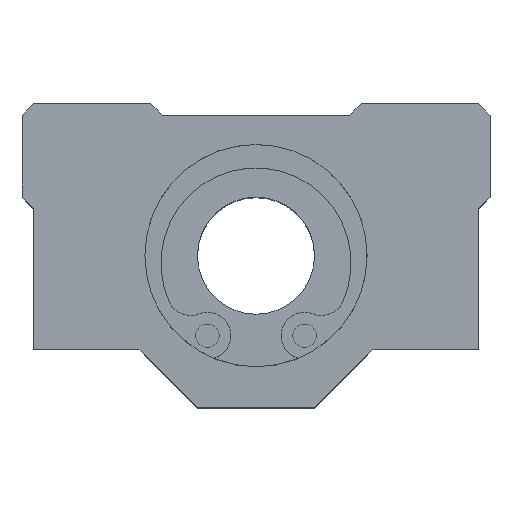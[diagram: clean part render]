
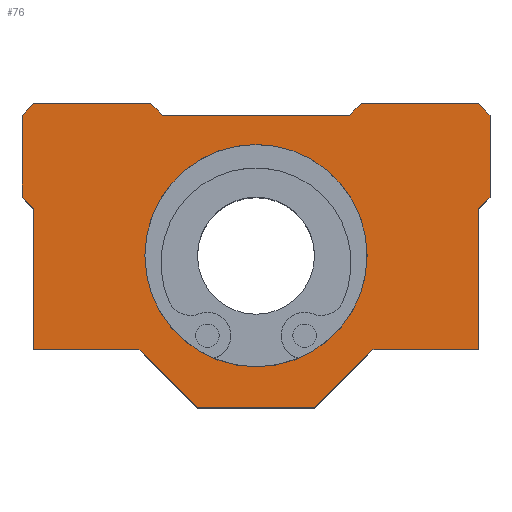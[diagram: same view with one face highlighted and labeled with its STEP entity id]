
A CAD part, top view. The second image highlights one B-rep face of the part: STEP entity #76.
In plain terms, the highlighted planar face has unit normal (0, 0, 1).
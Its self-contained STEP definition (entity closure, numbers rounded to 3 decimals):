
#76=ADVANCED_FACE('',(#132,#133),#134,.F.);
#132=FACE_OUTER_BOUND('',#269,.T.);
#133=FACE_BOUND('',#270,.T.);
#134=PLANE('',#271);
#269=EDGE_LOOP('',(#411,#412,#413,#414,#415,#416,#417,#418,#419,#420,#421,#422,#423,#424,#425,#426,#427,#428));
#270=EDGE_LOOP('',(#429));
#271=AXIS2_PLACEMENT_3D('',#430,#431,#432);
#411=ORIENTED_EDGE('',*,*,#795,.F.);
#412=ORIENTED_EDGE('',*,*,#796,.F.);
#413=ORIENTED_EDGE('',*,*,#797,.F.);
#414=ORIENTED_EDGE('',*,*,#798,.F.);
#415=ORIENTED_EDGE('',*,*,#799,.F.);
#416=ORIENTED_EDGE('',*,*,#800,.F.);
#417=ORIENTED_EDGE('',*,*,#801,.F.);
#418=ORIENTED_EDGE('',*,*,#802,.F.);
#419=ORIENTED_EDGE('',*,*,#803,.F.);
#420=ORIENTED_EDGE('',*,*,#804,.F.);
#421=ORIENTED_EDGE('',*,*,#805,.F.);
#422=ORIENTED_EDGE('',*,*,#806,.F.);
#423=ORIENTED_EDGE('',*,*,#807,.F.);
#424=ORIENTED_EDGE('',*,*,#808,.F.);
#425=ORIENTED_EDGE('',*,*,#809,.F.);
#426=ORIENTED_EDGE('',*,*,#810,.F.);
#427=ORIENTED_EDGE('',*,*,#811,.F.);
#428=ORIENTED_EDGE('',*,*,#812,.F.);
#429=ORIENTED_EDGE('',*,*,#794,.F.);
#430=CARTESIAN_POINT('',(-14.0,18.0,17.5));
#431=DIRECTION('',(0.0,0.0,-1.0));
#432=DIRECTION('',(0.0,1.0,0.0));
#794=EDGE_CURVE('',#912,#912,#913,.F.);
#795=EDGE_CURVE('',#914,#915,#916,.T.);
#796=EDGE_CURVE('',#917,#914,#918,.T.);
#797=EDGE_CURVE('',#919,#917,#920,.T.);
#798=EDGE_CURVE('',#921,#919,#922,.T.);
#799=EDGE_CURVE('',#923,#921,#924,.T.);
#800=EDGE_CURVE('',#925,#923,#926,.T.);
#801=EDGE_CURVE('',#927,#925,#928,.T.);
#802=EDGE_CURVE('',#929,#927,#930,.T.);
#803=EDGE_CURVE('',#931,#929,#932,.T.);
#804=EDGE_CURVE('',#933,#931,#934,.T.);
#805=EDGE_CURVE('',#935,#933,#936,.T.);
#806=EDGE_CURVE('',#937,#935,#938,.T.);
#807=EDGE_CURVE('',#939,#937,#940,.T.);
#808=EDGE_CURVE('',#941,#939,#942,.T.);
#809=EDGE_CURVE('',#943,#941,#944,.T.);
#810=EDGE_CURVE('',#945,#943,#946,.T.);
#811=EDGE_CURVE('',#947,#945,#948,.T.);
#812=EDGE_CURVE('',#915,#947,#949,.T.);
#912=VERTEX_POINT('',#1112);
#913=CIRCLE('',#1113,9.5);
#914=VERTEX_POINT('',#1114);
#915=VERTEX_POINT('',#1115);
#916=LINE('',#1116,#1117);
#917=VERTEX_POINT('',#1118);
#918=LINE('',#1119,#1120);
#919=VERTEX_POINT('',#1121);
#920=LINE('',#1122,#1123);
#921=VERTEX_POINT('',#1124);
#922=LINE('',#1125,#1126);
#923=VERTEX_POINT('',#1127);
#924=LINE('',#1128,#1129);
#925=VERTEX_POINT('',#1130);
#926=LINE('',#1131,#1132);
#927=VERTEX_POINT('',#1133);
#928=LINE('',#1134,#1135);
#929=VERTEX_POINT('',#1136);
#930=LINE('',#1137,#1138);
#931=VERTEX_POINT('',#1139);
#932=LINE('',#1140,#1141);
#933=VERTEX_POINT('',#1142);
#934=LINE('',#1143,#1144);
#935=VERTEX_POINT('',#1145);
#936=LINE('',#1146,#1147);
#937=VERTEX_POINT('',#1148);
#938=LINE('',#1149,#1150);
#939=VERTEX_POINT('',#1151);
#940=LINE('',#1152,#1153);
#941=VERTEX_POINT('',#1154);
#942=LINE('',#1155,#1156);
#943=VERTEX_POINT('',#1157);
#944=LINE('',#1158,#1159);
#945=VERTEX_POINT('',#1160);
#946=LINE('',#1161,#1162);
#947=VERTEX_POINT('',#1163);
#948=LINE('',#1164,#1165);
#949=LINE('',#1166,#1167);
#1112=CARTESIAN_POINT('',(-9.5,0.,17.5));
#1113=AXIS2_PLACEMENT_3D('',#1374,#1375,#1376);
#1114=CARTESIAN_POINT('',(-20.0,12.0,17.5));
#1115=CARTESIAN_POINT('',(-19.0,13.0,17.5));
#1116=CARTESIAN_POINT('',(-20.0,12.0,17.5));
#1117=VECTOR('',#1377,1.0);
#1118=CARTESIAN_POINT('',(-20.0,5.0,17.5));
#1119=CARTESIAN_POINT('',(-20.0,5.0,17.5));
#1120=VECTOR('',#1378,1.0);
#1121=CARTESIAN_POINT('',(-19.0,4.0,17.5));
#1122=CARTESIAN_POINT('',(-19.0,4.0,17.5));
#1123=VECTOR('',#1379,1.0);
#1124=CARTESIAN_POINT('',(-19.0,-8.0,17.5));
#1125=CARTESIAN_POINT('',(-19.0,-8.0,17.5));
#1126=VECTOR('',#1380,1.0);
#1127=CARTESIAN_POINT('',(-10.0,-8.0,17.5));
#1128=CARTESIAN_POINT('',(-10.0,-8.0,17.5));
#1129=VECTOR('',#1381,1.0);
#1130=CARTESIAN_POINT('',(-5.0,-13.0,17.5));
#1131=CARTESIAN_POINT('',(-5.0,-13.0,17.5));
#1132=VECTOR('',#1382,1.0);
#1133=CARTESIAN_POINT('',(5.0,-13.0,17.5));
#1134=CARTESIAN_POINT('',(5.0,-13.0,17.5));
#1135=VECTOR('',#1383,1.0);
#1136=CARTESIAN_POINT('',(10.0,-8.0,17.5));
#1137=CARTESIAN_POINT('',(10.0,-8.0,17.5));
#1138=VECTOR('',#1384,1.0);
#1139=CARTESIAN_POINT('',(19.0,-8.0,17.5));
#1140=CARTESIAN_POINT('',(19.0,-8.0,17.5));
#1141=VECTOR('',#1385,1.0);
#1142=CARTESIAN_POINT('',(19.0,4.0,17.5));
#1143=CARTESIAN_POINT('',(19.0,4.0,17.5));
#1144=VECTOR('',#1386,1.0);
#1145=CARTESIAN_POINT('',(20.0,5.0,17.5));
#1146=CARTESIAN_POINT('',(20.0,5.0,17.5));
#1147=VECTOR('',#1387,1.0);
#1148=CARTESIAN_POINT('',(20.0,12.0,17.5));
#1149=CARTESIAN_POINT('',(20.0,12.0,17.5));
#1150=VECTOR('',#1388,1.0);
#1151=CARTESIAN_POINT('',(19.0,13.0,17.5));
#1152=CARTESIAN_POINT('',(19.0,13.0,17.5));
#1153=VECTOR('',#1389,1.0);
#1154=CARTESIAN_POINT('',(9.0,13.0,17.5));
#1155=CARTESIAN_POINT('',(9.0,13.0,17.5));
#1156=VECTOR('',#1390,1.0);
#1157=CARTESIAN_POINT('',(8.0,12.0,17.5));
#1158=CARTESIAN_POINT('',(8.0,12.0,17.5));
#1159=VECTOR('',#1391,1.0);
#1160=CARTESIAN_POINT('',(-8.0,12.0,17.5));
#1161=CARTESIAN_POINT('',(-8.0,12.0,17.5));
#1162=VECTOR('',#1392,1.0);
#1163=CARTESIAN_POINT('',(-9.0,13.0,17.5));
#1164=CARTESIAN_POINT('',(-9.0,13.0,17.5));
#1165=VECTOR('',#1393,1.0);
#1166=CARTESIAN_POINT('',(-19.0,13.0,17.5));
#1167=VECTOR('',#1394,1.0);
#1374=CARTESIAN_POINT('',(0.0,0.0,17.5));
#1375=DIRECTION('',(0.0,0.0,-1.0));
#1376=DIRECTION('',(-1.0,0.0,0.0));
#1377=DIRECTION('',(0.707,0.707,0.0));
#1378=DIRECTION('',(0.0,1.0,0.0));
#1379=DIRECTION('',(-0.707,0.707,0.0));
#1380=DIRECTION('',(0.0,1.0,0.0));
#1381=DIRECTION('',(-1.0,0.0,0.0));
#1382=DIRECTION('',(-0.707,0.707,0.0));
#1383=DIRECTION('',(-1.0,0.0,0.0));
#1384=DIRECTION('',(-0.707,-0.707,0.0));
#1385=DIRECTION('',(-1.0,0.,0.0));
#1386=DIRECTION('',(0.0,-1.0,0.0));
#1387=DIRECTION('',(-0.707,-0.707,0.0));
#1388=DIRECTION('',(0.0,-1.0,0.0));
#1389=DIRECTION('',(0.707,-0.707,0.0));
#1390=DIRECTION('',(1.0,0.,0.0));
#1391=DIRECTION('',(0.707,0.707,0.0));
#1392=DIRECTION('',(1.0,0.0,0.0));
#1393=DIRECTION('',(0.707,-0.707,0.0));
#1394=DIRECTION('',(1.0,0.0,0.0));
